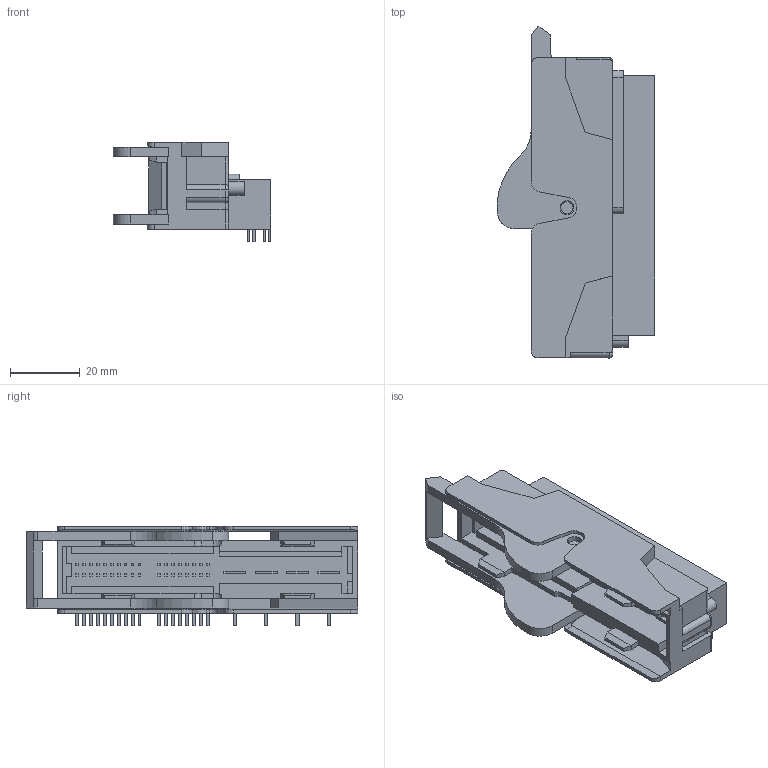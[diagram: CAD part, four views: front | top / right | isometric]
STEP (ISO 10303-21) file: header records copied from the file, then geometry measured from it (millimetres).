
FILE_DESCRIPTION(('CATIA V5 STEP Exchange','CAx-IF Rec.Pracs.--- Model Styling and Organization---1.2---2011-12-15'),'2;1');
FILE_NAME('N:\C-DAM_MyDesk\ENV\900093\6098-1107_OPEN.stp','2014-11-27T02:18:09+00:00',('none'),('none'),'Version 5-6 Release 2012','CATIA V5 STEP AP214','none');
FILE_SCHEMA(('AUTOMOTIVE_DESIGN { 1 0 10303 214 1 1 1 1 }'));
Length unit declared in the file: millimetre
Products named in the file (1): 6098-1107_OPEN
Bounding box: 45.29 x 95.38 x 28.6 mm (x, y, z)
Volume: 36734.6 mm3; surface area: 26301.4 mm2
Topology: 2 solids, 2 shells, 657 faces, 1704 edges, 1124 vertices
Faces by surface type: plane 579, cylinder 68, cone 8, torus 2
Entity records: 18276 total; most frequent: ORIENTED_EDGE 3408, CARTESIAN_POINT 3250, DIRECTION 2456, EDGE_CURVE 1704, VECTOR 1558, LINE 1558, VERTEX_POINT 1124, EDGE_LOOP 740
